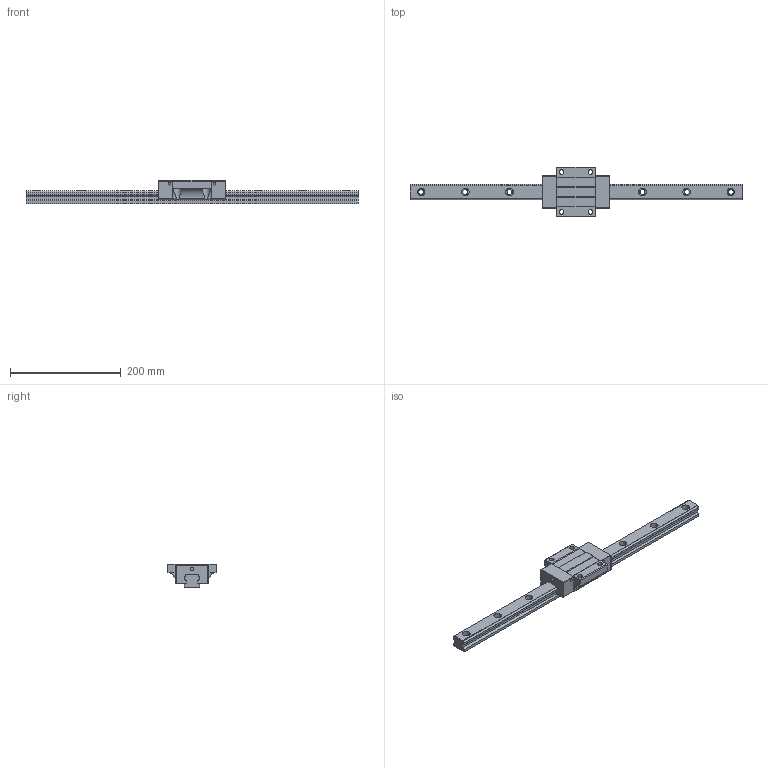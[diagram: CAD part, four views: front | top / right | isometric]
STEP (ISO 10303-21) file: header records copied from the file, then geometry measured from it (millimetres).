
FILE_DESCRIPTION (( 'STEP AP203' ), '1' );
FILE_NAME ('TRH30FN-DZ.STEP', '2024-07-04T06:22:57', ( '' ), ( '' ), 'SwSTEP 2.0', 'SolidWorks 2022', '' );
FILE_SCHEMA (( 'CONFIG_CONTROL_DESIGN' ));
Length unit declared in the file: millimetre
Products named in the file (1): TRH30FN-DZ
Bounding box: 600 x 90 x 42 mm (x, y, z)
Volume: 544866.2 mm3; surface area: 107749.3 mm2
Topology: 2 solids, 2 shells, 214 faces, 580 edges, 380 vertices
Faces by surface type: cylinder 116, plane 94, sphere 4
Entity records: 7507 total; most frequent: CARTESIAN_POINT 1871, DIRECTION 1184, ORIENTED_EDGE 1152, EDGE_CURVE 576, AXIS2_PLACEMENT_3D 421, VERTEX_POINT 380, LINE 342, VECTOR 342
